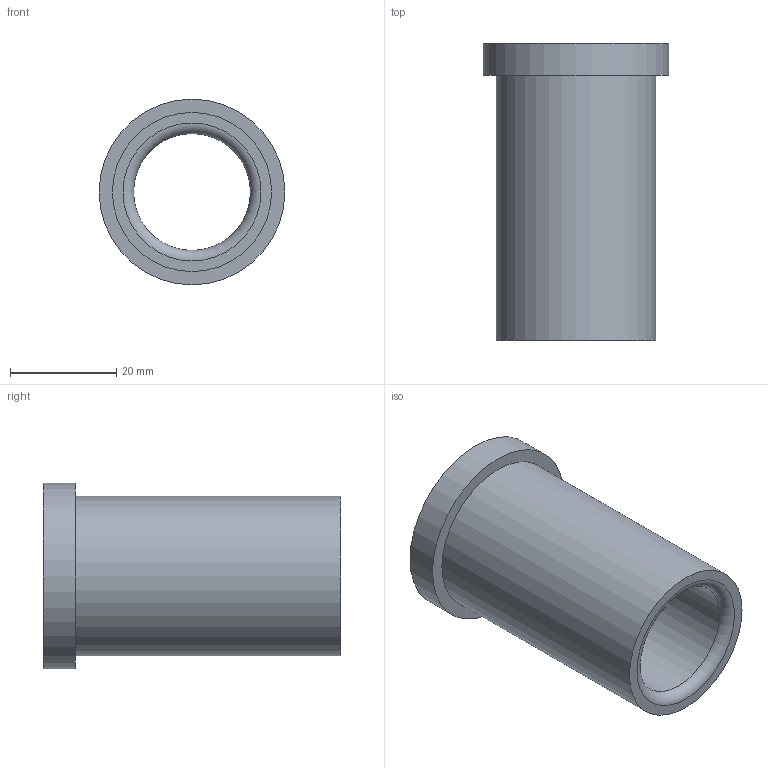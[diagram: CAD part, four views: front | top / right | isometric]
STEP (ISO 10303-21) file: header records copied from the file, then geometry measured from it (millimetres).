
FILE_DESCRIPTION(/* description */ ('STEP AP214'),/* implementation_level */ '2;1');
FILE_NAME(/* name */ '03_12_17931',/* time_stamp */ '2023-06-15T11:35:33+02:00',/* author */ ('License CC BY-ND 4.0'),/* organization */ ('CADENAS'),/* preprocessor_version */ 'ST-DEVELOPER v19.3',/* originating_system */ 'PARTsolutions',/* authorisation */ ' ');
FILE_SCHEMA (('AUTOMOTIVE_DESIGN {1 0 10303 214 3 1 1}'));
Length unit declared in the file: millimetre
Products named in the file (1): VA_Bushing_17931
Bounding box: 35 x 56 x 35 mm (x, y, z)
Volume: 19467.7 mm3; surface area: 10310.9 mm2
Topology: 1 solids, 1 shells, 10 faces, 16 edges, 10 vertices
Faces by surface type: cylinder 4, plane 4, torus 2
Full cylindrical faces by diameter (mm): 22 x1, 22.6 x1, 30 x1, 35 x1
Entity records: 302 total; most frequent: DIRECTION 42, CARTESIAN_POINT 31, AXIS2_PLACEMENT_3D 21, ORIENTED_EDGE 20, EDGE_LOOP 20, FACE_BOUND 20, EDGE_CURVE 10, VERTEX_POINT 10
